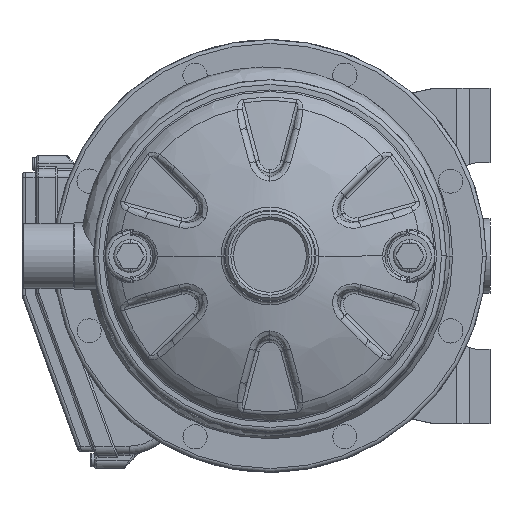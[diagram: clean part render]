
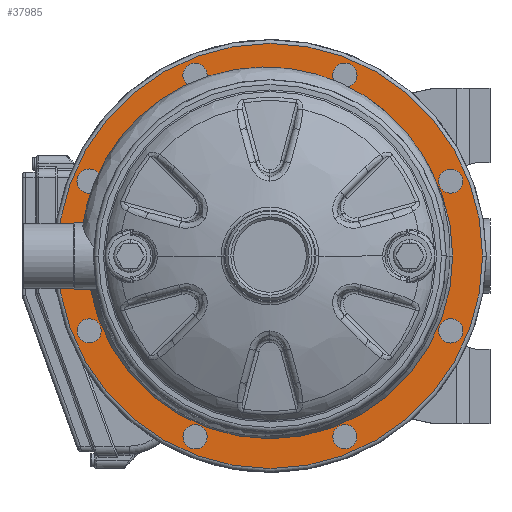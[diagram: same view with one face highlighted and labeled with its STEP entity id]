
A CAD part, left-side view. The second image highlights one B-rep face of the part: STEP entity #37985.
In plain terms, the highlighted planar face has unit normal (-1, 0, 0).
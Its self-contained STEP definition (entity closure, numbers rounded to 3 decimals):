
#30477=CARTESIAN_POINT('',(33.,0.,
0.));
#30478=DIRECTION('',(1.,0.,0.));
#30479=DIRECTION('',(0.,-1.,0.));
#30480=AXIS2_PLACEMENT_3D('',#30477,#30478,#30479);
#30485=CARTESIAN_POINT('',(33.,0.,
0.));
#30486=DIRECTION('',(1.,0.,0.));
#30487=DIRECTION('',(0.,1.,0.));
#30488=AXIS2_PLACEMENT_3D('',#30485,#30486,#30487);
#30493=CARTESIAN_POINT('',(33.,0.,0.));
#30494=DIRECTION('',(-1.,0.,0.));
#30495=DIRECTION('',(0.,1.,0.));
#30496=AXIS2_PLACEMENT_3D('',#30493,#30494,#30495);
#30501=CARTESIAN_POINT('',(33.,0.,0.));
#30502=DIRECTION('',(-1.,0.,0.));
#30503=DIRECTION('',(0.,-1.,0.));
#30504=AXIS2_PLACEMENT_3D('',#30501,#30502,#30503);
#30509=CARTESIAN_POINT('',(33.,97.007,40.182));
#30510=DIRECTION('',(-1.,0.,0.));
#30511=DIRECTION('',(0.,0.,1.));
#30512=AXIS2_PLACEMENT_3D('',#30509,#30510,#30511);
#30517=CARTESIAN_POINT('',(33.,97.007,40.182));
#30518=DIRECTION('',(-1.,0.,0.));
#30519=DIRECTION('',(0.,0.,-1.));
#30520=AXIS2_PLACEMENT_3D('',#30517,#30518,#30519);
#30525=CARTESIAN_POINT('',(33.,40.182,97.007));
#30526=DIRECTION('',(-1.,0.,0.));
#30527=DIRECTION('',(0.,-0.707,0.707));
#30528=AXIS2_PLACEMENT_3D('',#30525,#30526,#30527);
#30533=CARTESIAN_POINT('',(33.,40.182,97.007));
#30534=DIRECTION('',(-1.,0.,0.));
#30535=DIRECTION('',(0.,0.707,-0.707));
#30536=AXIS2_PLACEMENT_3D('',#30533,#30534,#30535);
#30541=CARTESIAN_POINT('',(33.,-40.182,97.007));
#30542=DIRECTION('',(-1.,0.,0.));
#30543=DIRECTION('',(0.,-1.,0.));
#30544=AXIS2_PLACEMENT_3D('',#30541,#30542,#30543);
#30549=CARTESIAN_POINT('',(33.,-40.182,97.007));
#30550=DIRECTION('',(-1.,0.,0.));
#30551=DIRECTION('',(0.,1.,0.));
#30552=AXIS2_PLACEMENT_3D('',#30549,#30550,#30551);
#30557=CARTESIAN_POINT('',(33.,-97.007,40.182));
#30558=DIRECTION('',(-1.,0.,0.));
#30559=DIRECTION('',(0.,-0.707,-0.707));
#30560=AXIS2_PLACEMENT_3D('',#30557,#30558,#30559);
#30565=CARTESIAN_POINT('',(33.,-97.007,40.182));
#30566=DIRECTION('',(-1.,0.,0.));
#30567=DIRECTION('',(0.,0.707,0.707));
#30568=AXIS2_PLACEMENT_3D('',#30565,#30566,#30567);
#30573=CARTESIAN_POINT('',(33.,-97.007,-40.182));
#30574=DIRECTION('',(-1.,0.,0.));
#30575=DIRECTION('',(0.,0.,-1.));
#30576=AXIS2_PLACEMENT_3D('',#30573,#30574,#30575);
#30581=CARTESIAN_POINT('',(33.,-97.007,-40.182));
#30582=DIRECTION('',(-1.,0.,0.));
#30583=DIRECTION('',(0.,0.,1.));
#30584=AXIS2_PLACEMENT_3D('',#30581,#30582,#30583);
#30589=CARTESIAN_POINT('',(33.,-40.182,-97.007));
#30590=DIRECTION('',(-1.,0.,0.));
#30591=DIRECTION('',(0.,0.707,-0.707));
#30592=AXIS2_PLACEMENT_3D('',#30589,#30590,#30591);
#30597=CARTESIAN_POINT('',(33.,-40.182,-97.007));
#30598=DIRECTION('',(-1.,0.,0.));
#30599=DIRECTION('',(0.,-0.707,0.707));
#30600=AXIS2_PLACEMENT_3D('',#30597,#30598,#30599);
#30605=CARTESIAN_POINT('',(33.,40.182,-97.007));
#30606=DIRECTION('',(-1.,0.,0.));
#30607=DIRECTION('',(0.,1.,0.));
#30608=AXIS2_PLACEMENT_3D('',#30605,#30606,#30607);
#30613=CARTESIAN_POINT('',(33.,40.182,-97.007));
#30614=DIRECTION('',(-1.,0.,0.));
#30615=DIRECTION('',(0.,-1.,0.));
#30616=AXIS2_PLACEMENT_3D('',#30613,#30614,#30615);
#30621=CARTESIAN_POINT('',(33.,97.007,-40.182));
#30622=DIRECTION('',(-1.,0.,0.));
#30623=DIRECTION('',(0.,0.707,0.707));
#30624=AXIS2_PLACEMENT_3D('',#30621,#30622,#30623);
#30629=CARTESIAN_POINT('',(33.,97.007,-40.182));
#30630=DIRECTION('',(-1.,0.,0.));
#30631=DIRECTION('',(0.,-0.707,-0.707));
#30632=AXIS2_PLACEMENT_3D('',#30629,#30630,#30631);
#37300=CARTESIAN_POINT('',(33.,-98.,
0.));
#37301=CARTESIAN_POINT('',(33.,98.,
0.));
#37302=VERTEX_POINT('',#37300);
#37303=VERTEX_POINT('',#37301);
#37304=CARTESIAN_POINT('',(33.,114.,0.));
#37305=CARTESIAN_POINT('',(33.,-114.,0.));
#37306=VERTEX_POINT('',#37304);
#37307=VERTEX_POINT('',#37305);
#37324=CARTESIAN_POINT('',(33.,97.007,46.682));
#37325=CARTESIAN_POINT('',(33.,97.007,33.682));
#37326=VERTEX_POINT('',#37324);
#37327=VERTEX_POINT('',#37325);
#37356=CARTESIAN_POINT('',(33.,35.586,101.604));
#37357=VERTEX_POINT('',#37356);
#37358=CARTESIAN_POINT('',(33.,44.778,92.411));
#37359=VERTEX_POINT('',#37358);
#37372=CARTESIAN_POINT('',(33.,-46.682,97.007));
#37373=VERTEX_POINT('',#37372);
#37374=CARTESIAN_POINT('',(33.,-33.682,97.007));
#37375=VERTEX_POINT('',#37374);
#37388=CARTESIAN_POINT('',(33.,-101.604,35.586));
#37389=VERTEX_POINT('',#37388);
#37390=CARTESIAN_POINT('',(33.,-92.411,44.778));
#37391=VERTEX_POINT('',#37390);
#37404=CARTESIAN_POINT('',(33.,-97.007,-46.682));
#37405=VERTEX_POINT('',#37404);
#37406=CARTESIAN_POINT('',(33.,-97.007,-33.682));
#37407=VERTEX_POINT('',#37406);
#37420=CARTESIAN_POINT('',(33.,-35.586,-101.604));
#37421=VERTEX_POINT('',#37420);
#37422=CARTESIAN_POINT('',(33.,-44.778,-92.411));
#37423=VERTEX_POINT('',#37422);
#37436=CARTESIAN_POINT('',(33.,46.682,-97.007));
#37437=VERTEX_POINT('',#37436);
#37438=CARTESIAN_POINT('',(33.,33.682,-97.007));
#37439=VERTEX_POINT('',#37438);
#37452=CARTESIAN_POINT('',(33.,101.604,-35.586));
#37453=VERTEX_POINT('',#37452);
#37454=CARTESIAN_POINT('',(33.,92.411,-44.778));
#37455=VERTEX_POINT('',#37454);
#37921=CARTESIAN_POINT('',(33.,0.,0.));
#37922=DIRECTION('',(1.,0.,0.));
#37923=DIRECTION('',(0.,-1.,0.));
#37924=AXIS2_PLACEMENT_3D('',#37921,#37922,#37923);
#37925=PLANE('',#37924);
#37927=ORIENTED_EDGE('',*,*,#37926,.F.);
#37928=ORIENTED_EDGE('',*,*,#37911,.F.);
#37929=EDGE_LOOP('',(#37927,#37928));
#37930=FACE_OUTER_BOUND('',#37929,.F.);
#37932=ORIENTED_EDGE('',*,*,#37931,.F.);
#37934=ORIENTED_EDGE('',*,*,#37933,.F.);
#37935=EDGE_LOOP('',(#37932,#37934));
#37936=FACE_BOUND('',#37935,.F.);
#37938=ORIENTED_EDGE('',*,*,#37937,.T.);
#37940=ORIENTED_EDGE('',*,*,#37939,.T.);
#37941=EDGE_LOOP('',(#37938,#37940));
#37942=FACE_BOUND('',#37941,.F.);
#37944=ORIENTED_EDGE('',*,*,#37943,.T.);
#37946=ORIENTED_EDGE('',*,*,#37945,.T.);
#37947=EDGE_LOOP('',(#37944,#37946));
#37948=FACE_BOUND('',#37947,.F.);
#37950=ORIENTED_EDGE('',*,*,#37949,.T.);
#37952=ORIENTED_EDGE('',*,*,#37951,.T.);
#37953=EDGE_LOOP('',(#37950,#37952));
#37954=FACE_BOUND('',#37953,.F.);
#37956=ORIENTED_EDGE('',*,*,#37955,.T.);
#37958=ORIENTED_EDGE('',*,*,#37957,.T.);
#37959=EDGE_LOOP('',(#37956,#37958));
#37960=FACE_BOUND('',#37959,.F.);
#37962=ORIENTED_EDGE('',*,*,#37961,.T.);
#37964=ORIENTED_EDGE('',*,*,#37963,.T.);
#37965=EDGE_LOOP('',(#37962,#37964));
#37966=FACE_BOUND('',#37965,.F.);
#37968=ORIENTED_EDGE('',*,*,#37967,.T.);
#37970=ORIENTED_EDGE('',*,*,#37969,.T.);
#37971=EDGE_LOOP('',(#37968,#37970));
#37972=FACE_BOUND('',#37971,.F.);
#37974=ORIENTED_EDGE('',*,*,#37973,.T.);
#37976=ORIENTED_EDGE('',*,*,#37975,.T.);
#37977=EDGE_LOOP('',(#37974,#37976));
#37978=FACE_BOUND('',#37977,.F.);
#37980=ORIENTED_EDGE('',*,*,#37979,.T.);
#37982=ORIENTED_EDGE('',*,*,#37981,.T.);
#37983=EDGE_LOOP('',(#37980,#37982));
#37984=FACE_BOUND('',#37983,.F.);
#30481=CIRCLE('',#30480,98.);
#30489=CIRCLE('',#30488,98.);
#30497=CIRCLE('',#30496,114.);
#30505=CIRCLE('',#30504,114.);
#30513=CIRCLE('',#30512,6.5);
#30521=CIRCLE('',#30520,6.5);
#30529=CIRCLE('',#30528,6.5);
#30537=CIRCLE('',#30536,6.5);
#30545=CIRCLE('',#30544,6.5);
#30553=CIRCLE('',#30552,6.5);
#30561=CIRCLE('',#30560,6.5);
#30569=CIRCLE('',#30568,6.5);
#30577=CIRCLE('',#30576,6.5);
#30585=CIRCLE('',#30584,6.5);
#30593=CIRCLE('',#30592,6.5);
#30601=CIRCLE('',#30600,6.5);
#30609=CIRCLE('',#30608,6.5);
#30617=CIRCLE('',#30616,6.5);
#30625=CIRCLE('',#30624,6.5);
#30633=CIRCLE('',#30632,6.5);
#37911=EDGE_CURVE('',#37307,#37306,#30505,.T.);
#37926=EDGE_CURVE('',#37306,#37307,#30497,.T.);
#37931=EDGE_CURVE('',#37302,#37303,#30481,.T.);
#37933=EDGE_CURVE('',#37303,#37302,#30489,.T.);
#37937=EDGE_CURVE('',#37326,#37327,#30513,.T.);
#37939=EDGE_CURVE('',#37327,#37326,#30521,.T.);
#37943=EDGE_CURVE('',#37357,#37359,#30529,.T.);
#37945=EDGE_CURVE('',#37359,#37357,#30537,.T.);
#37949=EDGE_CURVE('',#37373,#37375,#30545,.T.);
#37951=EDGE_CURVE('',#37375,#37373,#30553,.T.);
#37955=EDGE_CURVE('',#37389,#37391,#30561,.T.);
#37957=EDGE_CURVE('',#37391,#37389,#30569,.T.);
#37961=EDGE_CURVE('',#37405,#37407,#30577,.T.);
#37963=EDGE_CURVE('',#37407,#37405,#30585,.T.);
#37967=EDGE_CURVE('',#37421,#37423,#30593,.T.);
#37969=EDGE_CURVE('',#37423,#37421,#30601,.T.);
#37973=EDGE_CURVE('',#37437,#37439,#30609,.T.);
#37975=EDGE_CURVE('',#37439,#37437,#30617,.T.);
#37979=EDGE_CURVE('',#37453,#37455,#30625,.T.);
#37981=EDGE_CURVE('',#37455,#37453,#30633,.T.);
#37985=ADVANCED_FACE('',(#37930,#37936,#37942,#37948,#37954,#37960,#37966,
#37972,#37978,#37984),#37925,.F.);
